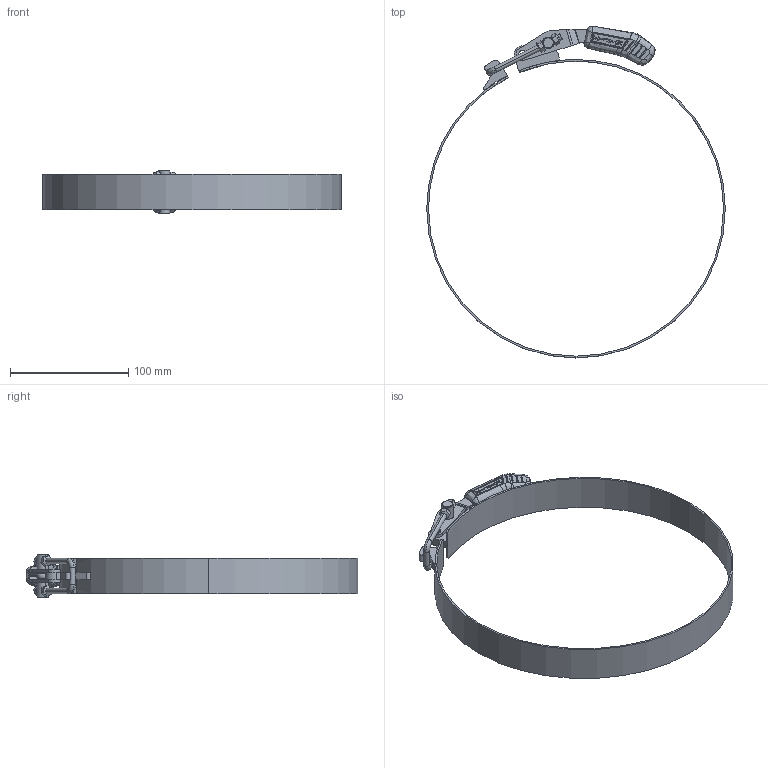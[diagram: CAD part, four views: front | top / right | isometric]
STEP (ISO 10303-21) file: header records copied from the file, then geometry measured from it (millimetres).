
FILE_DESCRIPTION (( 'STEP AP203' ), '1' );
FILE_NAME ('KF-743 CT250.STEP', '2020-07-27T18:17:01', ( 'Ricardo' ), ( '' ), 'SwSTEP 2.0', 'SolidWorks 2019', '' );
FILE_SCHEMA (( 'CONFIG_CONTROL_DESIGN' ));
Length unit declared in the file: millimetre
Products named in the file (10): 01.10389_esquerda; 16.20034; 03.20018; 11.50013; 22.10096_Valor predeterminadoSM-FLAT-PATTERN; 07.60005; 15.10208; KF-743 CT250; 02.10123; 01.10389
Assembly tree (12 placements, depth 2):
  KF-743 CT250
    22.10096_Valor predeterminadoSM-FLAT-PATTERN
    15.10208
    02.10123
    01.10389
    01.10389_esquerda
    16.20034
    03.20018
    11.50013  x4
    07.60005
Bounding box: 253 x 281.28 x 37 mm (x, y, z)
Volume: 68951.9 mm3; surface area: 70186.3 mm2
Topology: 12 solids, 12 shells, 834 faces, 2125 edges, 1325 vertices
Faces by surface type: bspline 273, cylinder 240, plane 213, cone 50, sphere 50, torus 8
Entity records: 31523 total; most frequent: CARTESIAN_POINT 14350, ORIENTED_EDGE 3954, DIRECTION 2545, EDGE_CURVE 1977, VERTEX_POINT 1238, AXIS2_PLACEMENT_3D 945, EDGE_LOOP 801, ADVANCED_FACE 771
